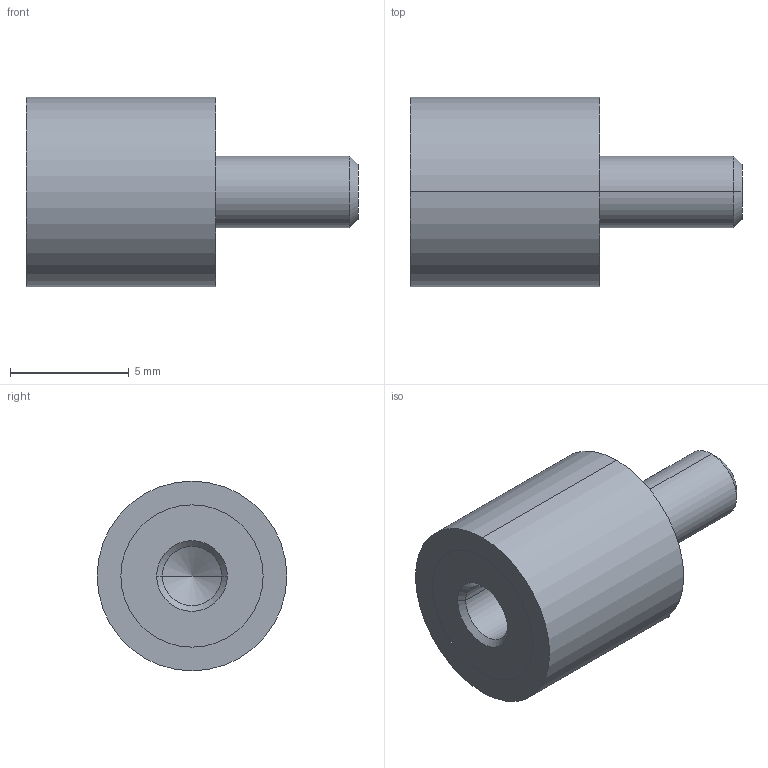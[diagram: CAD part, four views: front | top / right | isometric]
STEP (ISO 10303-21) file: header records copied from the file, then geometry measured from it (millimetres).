
FILE_DESCRIPTION (( 'STEP AP214' ), '1' );
FILE_NAME ('351-8-8-M3-ES-70.step', '2025-07-23T09:41:28', ( '' ), ( '' ), 'SwSTEP 2.0', 'SolidWorks 2022', '' );
FILE_SCHEMA (( 'AUTOMOTIVE_DESIGN' ));
Length unit declared in the file: millimetre
Products named in the file (1): 351-8-8-M3-ES-70
Bounding box: 14 x 8 x 8 mm (x, y, z)
Volume: 422.6 mm3; surface area: 387.5 mm2
Topology: 1 solids, 1 shells, 24 faces, 48 edges, 29 vertices
Faces by surface type: cylinder 12, cone 6, plane 6
Entity records: 740 total; most frequent: DIRECTION 124, CARTESIAN_POINT 100, ORIENTED_EDGE 92, AXIS2_PLACEMENT_3D 53, EDGE_CURVE 46, EDGE_LOOP 29, VERTEX_POINT 29, CIRCLE 28
